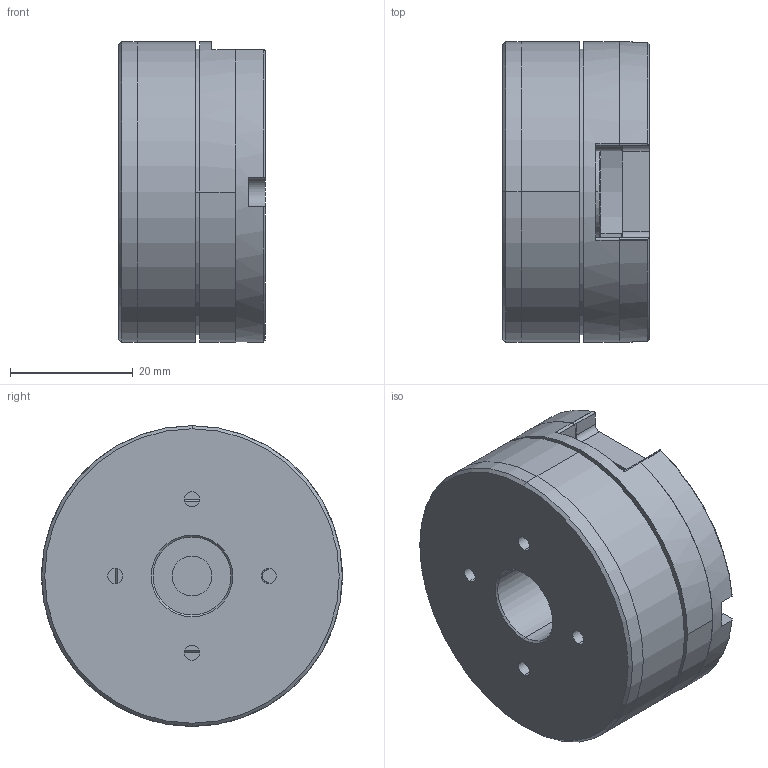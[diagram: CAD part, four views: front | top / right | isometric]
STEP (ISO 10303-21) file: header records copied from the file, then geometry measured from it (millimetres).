
FILE_DESCRIPTION (( 'STEP AP214' ), '1' );
FILE_NAME ('RMD-5005（12.7大孔）.STEP', '2024-01-23T08:28:42', ( '' ), ( '' ), 'SwSTEP 2.0', 'SolidWorks 2020', '' );
FILE_SCHEMA (( 'AUTOMOTIVE_DESIGN' ));
Length unit declared in the file: millimetre
Products named in the file (5): RMD-5005（12.7大孔）; XM_5005DM_MC; XM_50DM_FC; XM_5005DM_CA; XM_5005DM_BC
Assembly tree (4 placements, depth 2):
  RMD-5005（12.7大孔）
    XM_5005DM_MC
    XM_5005DM_BC
    XM_5005DM_CA
    XM_50DM_FC
Bounding box: 23.9 x 49 x 49 mm (x, y, z)
Volume: 15114.8 mm3; surface area: 22351.4 mm2
Topology: 4 solids, 4 shells, 354 faces, 966 edges, 634 vertices
Faces by surface type: plane 170, cylinder 155, cone 29
Entity records: 15516 total; most frequent: DIRECTION 2138, CARTESIAN_POINT 1987, ORIENTED_EDGE 1916, EDGE_CURVE 958, AXIS2_PLACEMENT_3D 829, VERTEX_POINT 634, VECTOR 480, LINE 480
